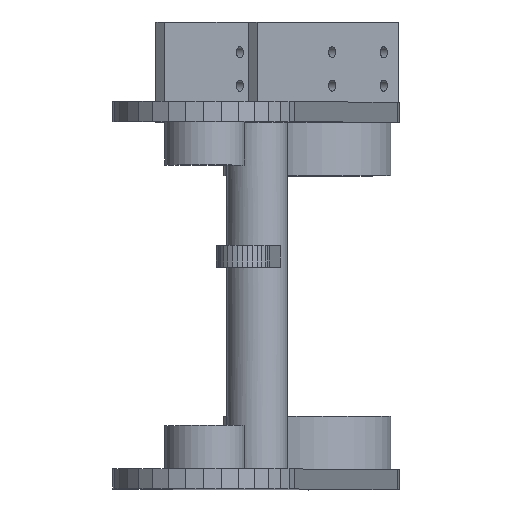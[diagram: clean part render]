
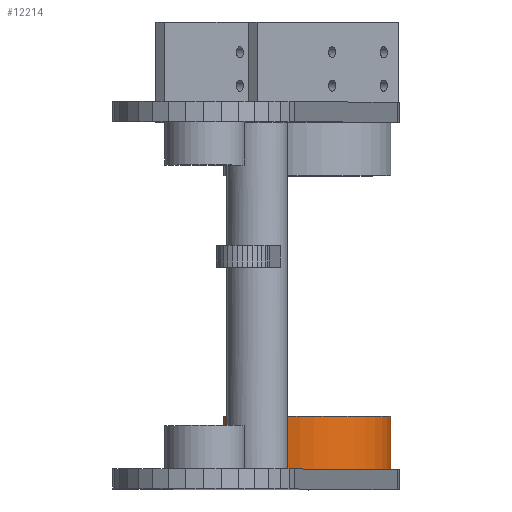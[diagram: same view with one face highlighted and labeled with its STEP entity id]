
A CAD part, top view. The second image highlights one B-rep face of the part: STEP entity #12214.
In plain terms, the highlighted cylindrical face has radius 25 mm (diameter 50 mm), a partial arc.
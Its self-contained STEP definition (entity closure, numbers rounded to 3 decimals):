
#5752 = PLANE('',#5753);
#5753 = AXIS2_PLACEMENT_3D('',#5754,#5755,#5756);
#5754 = CARTESIAN_POINT('',(89.625,-17.8,-284.02));
#5755 = DIRECTION('',(0.,1.,0.));
#5756 = DIRECTION('',(0.,-0.,1.));
#8252 = VERTEX_POINT('',#8253);
#8253 = CARTESIAN_POINT('',(89.427,-17.8,-375.597));
#8274 = CYLINDRICAL_SURFACE('',#8275,3.6);
#8275 = AXIS2_PLACEMENT_3D('',#8276,#8277,#8278);
#8276 = CARTESIAN_POINT('',(93.,-24.8,-376.04));
#8277 = DIRECTION('',(0.,-1.,-0.));
#8278 = DIRECTION('',(1.,0.,0.));
#8340 = CYLINDRICAL_SURFACE('',#8341,3.6);
#8341 = AXIS2_PLACEMENT_3D('',#8342,#8343,#8344);
#8342 = CARTESIAN_POINT('',(117.,-24.8,-376.04));
#8343 = DIRECTION('',(0.,-1.,-0.));
#8344 = DIRECTION('',(1.,0.,0.));
#8353 = VERTEX_POINT('',#8354);
#8354 = CARTESIAN_POINT('',(120.573,-17.8,-375.597));
#8380 = EDGE_CURVE('',#8353,#8252,#8381,.T.);
#8381 = SURFACE_CURVE('',#8382,(#8387,#8398),.PCURVE_S1.);
#8382 = CIRCLE('',#8383,25.);
#8383 = AXIS2_PLACEMENT_3D('',#8384,#8385,#8386);
#8384 = CARTESIAN_POINT('',(105.,-17.8,-356.04));
#8385 = DIRECTION('',(0.,-1.,-0.));
#8386 = DIRECTION('',(-0.397,0.,-0.918));
#8387 = PCURVE('',#5752,#8388);
#8388 = DEFINITIONAL_REPRESENTATION('',(#8389),#8397);
#8389 = ( BOUNDED_CURVE() B_SPLINE_CURVE(2,(#8390,#8391,#8392,#8393,
#8394,#8395,#8396),.UNSPECIFIED.,.T.,.F.) B_SPLINE_CURVE_WITH_KNOTS((1,2
    ,2,2,2,1),(-2.094,0.,2.094,4.189,
6.283,8.378),.UNSPECIFIED.) CURVE() 
GEOMETRIC_REPRESENTATION_ITEM() RATIONAL_B_SPLINE_CURVE((1.,0.5,1.,0.5,
1.,0.5,1.)) REPRESENTATION_ITEM('') );
#8390 = CARTESIAN_POINT('',(-94.964,5.447));
#8391 = CARTESIAN_POINT('',(-112.16,45.187));
#8392 = CARTESIAN_POINT('',(-69.146,40.209));
#8393 = CARTESIAN_POINT('',(-26.132,35.231));
#8394 = CARTESIAN_POINT('',(-51.95,0.469));
#8395 = CARTESIAN_POINT('',(-77.768,-34.294));
#8396 = CARTESIAN_POINT('',(-94.964,5.447));
#8397 = ( GEOMETRIC_REPRESENTATION_CONTEXT(2) 
PARAMETRIC_REPRESENTATION_CONTEXT() REPRESENTATION_CONTEXT('2D SPACE',''
  ) );
#8398 = PCURVE('',#8399,#8404);
#8399 = CYLINDRICAL_SURFACE('',#8400,25.);
#8400 = AXIS2_PLACEMENT_3D('',#8401,#8402,#8403);
#8401 = CARTESIAN_POINT('',(105.,-17.8,-356.04));
#8402 = DIRECTION('',(0.,-1.,-0.));
#8403 = DIRECTION('',(1.,0.,0.));
#8404 = DEFINITIONAL_REPRESENTATION('',(#8405),#8409);
#8405 = LINE('',#8406,#8407);
#8406 = CARTESIAN_POINT('',(-8.262,0.));
#8407 = VECTOR('',#8408,1.);
#8408 = DIRECTION('',(1.,-0.));
#8409 = ( GEOMETRIC_REPRESENTATION_CONTEXT(2) 
PARAMETRIC_REPRESENTATION_CONTEXT() REPRESENTATION_CONTEXT('2D SPACE',''
  ) );
#12049 = EDGE_CURVE('',#12050,#8252,#12052,.T.);
#12050 = VERTEX_POINT('',#12051);
#12051 = CARTESIAN_POINT('',(89.427,-1.8,-375.597));
#12052 = SURFACE_CURVE('',#12053,(#12057,#12063),.PCURVE_S1.);
#12053 = LINE('',#12054,#12055);
#12054 = CARTESIAN_POINT('',(89.427,-17.8,-375.597));
#12055 = VECTOR('',#12056,1.);
#12056 = DIRECTION('',(0.,-1.,-0.));
#12057 = PCURVE('',#8274,#12058);
#12058 = DEFINITIONAL_REPRESENTATION('',(#12059),#12062);
#12059 = B_SPLINE_CURVE_WITH_KNOTS('',1,(#12060,#12061),.UNSPECIFIED.,
  .F.,.F.,(2,2),(-16.,0.),
  .PIECEWISE_BEZIER_KNOTS.);
#12060 = CARTESIAN_POINT('',(-3.265,-23.));
#12061 = CARTESIAN_POINT('',(-3.265,-7.));
#12062 = ( GEOMETRIC_REPRESENTATION_CONTEXT(2) 
PARAMETRIC_REPRESENTATION_CONTEXT() REPRESENTATION_CONTEXT('2D SPACE',''
  ) );
#12063 = PCURVE('',#8399,#12064);
#12064 = DEFINITIONAL_REPRESENTATION('',(#12065),#12068);
#12065 = B_SPLINE_CURVE_WITH_KNOTS('',1,(#12066,#12067),.UNSPECIFIED.,
  .F.,.F.,(2,2),(-16.,-0.),.PIECEWISE_BEZIER_KNOTS.);
#12066 = CARTESIAN_POINT('',(-2.243,-16.));
#12067 = CARTESIAN_POINT('',(-2.243,0.));
#12068 = ( GEOMETRIC_REPRESENTATION_CONTEXT(2) 
PARAMETRIC_REPRESENTATION_CONTEXT() REPRESENTATION_CONTEXT('2D SPACE',''
  ) );
#12087 = PLANE('',#12088);
#12088 = AXIS2_PLACEMENT_3D('',#12089,#12090,#12091);
#12089 = CARTESIAN_POINT('',(105.,-1.8,-356.04));
#12090 = DIRECTION('',(0.,1.,0.));
#12091 = DIRECTION('',(0.,-0.,1.));
#12214 = ADVANCED_FACE('',(#12215),#8399,.T.);
#12215 = FACE_BOUND('',#12216,.F.);
#12216 = EDGE_LOOP('',(#12217,#12238,#12239,#12240));
#12217 = ORIENTED_EDGE('',*,*,#12218,.T.);
#12218 = EDGE_CURVE('',#12219,#8353,#12221,.T.);
#12219 = VERTEX_POINT('',#12220);
#12220 = CARTESIAN_POINT('',(120.573,-1.8,-375.597));
#12221 = SURFACE_CURVE('',#12222,(#12226,#12232),.PCURVE_S1.);
#12222 = LINE('',#12223,#12224);
#12223 = CARTESIAN_POINT('',(120.573,-17.8,-375.597));
#12224 = VECTOR('',#12225,1.);
#12225 = DIRECTION('',(0.,-1.,-0.));
#12226 = PCURVE('',#8399,#12227);
#12227 = DEFINITIONAL_REPRESENTATION('',(#12228),#12231);
#12228 = B_SPLINE_CURVE_WITH_KNOTS('',1,(#12229,#12230),.UNSPECIFIED.,
  .F.,.F.,(2,2),(-16.,0.),
  .PIECEWISE_BEZIER_KNOTS.);
#12229 = CARTESIAN_POINT('',(-7.182,-16.));
#12230 = CARTESIAN_POINT('',(-7.182,0.));
#12231 = ( GEOMETRIC_REPRESENTATION_CONTEXT(2) 
PARAMETRIC_REPRESENTATION_CONTEXT() REPRESENTATION_CONTEXT('2D SPACE',''
  ) );
#12232 = PCURVE('',#8340,#12233);
#12233 = DEFINITIONAL_REPRESENTATION('',(#12234),#12237);
#12234 = B_SPLINE_CURVE_WITH_KNOTS('',1,(#12235,#12236),.UNSPECIFIED.,
  .F.,.F.,(2,2),(-16.,0.),
  .PIECEWISE_BEZIER_KNOTS.);
#12235 = CARTESIAN_POINT('',(-6.16,-23.));
#12236 = CARTESIAN_POINT('',(-6.16,-7.));
#12237 = ( GEOMETRIC_REPRESENTATION_CONTEXT(2) 
PARAMETRIC_REPRESENTATION_CONTEXT() REPRESENTATION_CONTEXT('2D SPACE',''
  ) );
#12238 = ORIENTED_EDGE('',*,*,#8380,.T.);
#12239 = ORIENTED_EDGE('',*,*,#12049,.F.);
#12240 = ORIENTED_EDGE('',*,*,#12241,.F.);
#12241 = EDGE_CURVE('',#12219,#12050,#12242,.T.);
#12242 = SURFACE_CURVE('',#12243,(#12248,#12255),.PCURVE_S1.);
#12243 = CIRCLE('',#12244,25.);
#12244 = AXIS2_PLACEMENT_3D('',#12245,#12246,#12247);
#12245 = CARTESIAN_POINT('',(105.,-1.8,-356.04));
#12246 = DIRECTION('',(0.,-1.,-0.));
#12247 = DIRECTION('',(-0.397,0.,-0.918));
#12248 = PCURVE('',#8399,#12249);
#12249 = DEFINITIONAL_REPRESENTATION('',(#12250),#12254);
#12250 = LINE('',#12251,#12252);
#12251 = CARTESIAN_POINT('',(-8.262,-16.));
#12252 = VECTOR('',#12253,1.);
#12253 = DIRECTION('',(1.,-0.));
#12254 = ( GEOMETRIC_REPRESENTATION_CONTEXT(2) 
PARAMETRIC_REPRESENTATION_CONTEXT() REPRESENTATION_CONTEXT('2D SPACE',''
  ) );
#12255 = PCURVE('',#12087,#12256);
#12256 = DEFINITIONAL_REPRESENTATION('',(#12257),#12265);
#12257 = ( BOUNDED_CURVE() B_SPLINE_CURVE(2,(#12258,#12259,#12260,#12261
    ,#12262,#12263,#12264),.UNSPECIFIED.,.T.,.F.) 
B_SPLINE_CURVE_WITH_KNOTS((1,2,2,2,2,1),(-2.094,0.,
    2.094,4.189,6.283,8.378),
.UNSPECIFIED.) CURVE() GEOMETRIC_REPRESENTATION_ITEM() 
RATIONAL_B_SPLINE_CURVE((1.,0.5,1.,0.5,1.,0.5,1.)) REPRESENTATION_ITEM(
  '') );
#12258 = CARTESIAN_POINT('',(-22.944,-9.928));
#12259 = CARTESIAN_POINT('',(-40.14,29.812));
#12260 = CARTESIAN_POINT('',(2.874,24.834));
#12261 = CARTESIAN_POINT('',(45.888,19.856));
#12262 = CARTESIAN_POINT('',(20.07,-14.906));
#12263 = CARTESIAN_POINT('',(-5.748,-49.669));
#12264 = CARTESIAN_POINT('',(-22.944,-9.928));
#12265 = ( GEOMETRIC_REPRESENTATION_CONTEXT(2) 
PARAMETRIC_REPRESENTATION_CONTEXT() REPRESENTATION_CONTEXT('2D SPACE',''
  ) );
